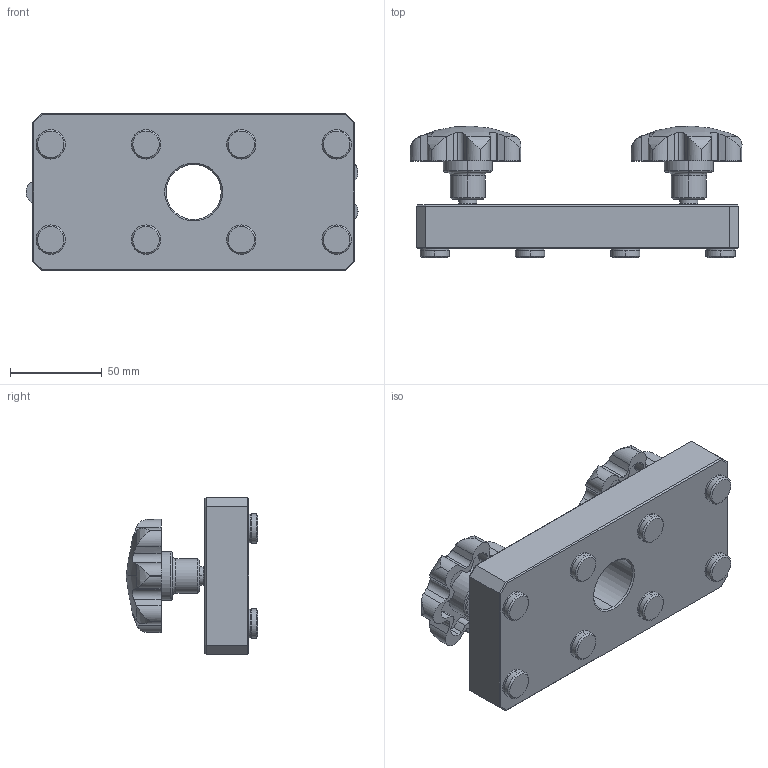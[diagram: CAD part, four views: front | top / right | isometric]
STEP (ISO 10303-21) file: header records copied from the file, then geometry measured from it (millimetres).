
FILE_DESCRIPTION (( 'STEP AP203' ), '1' );
FILE_NAME ('44521.STEP', '2021-10-15T06:58:44', ( '' ), ( '' ), 'SwSTEP 2.0', 'SolidWorks 2019', '' );
FILE_SCHEMA (( 'CONFIG_CONTROL_DESIGN' ));
Length unit declared in the file: millimetre
Products named in the file (1): 44521
Bounding box: 181.16 x 71.71 x 86 mm (x, y, z)
Volume: 427358.9 mm3; surface area: 69779.1 mm2
Topology: 3 solids, 3 shells, 355 faces, 901 edges, 570 vertices
Faces by surface type: cylinder 215, cone 61, plane 51, bspline 28
Entity records: 13620 total; most frequent: CARTESIAN_POINT 5005, DIRECTION 1847, ORIENTED_EDGE 1794, EDGE_CURVE 897, AXIS2_PLACEMENT_3D 756, VERTEX_POINT 570, CIRCLE 428, EDGE_LOOP 379
